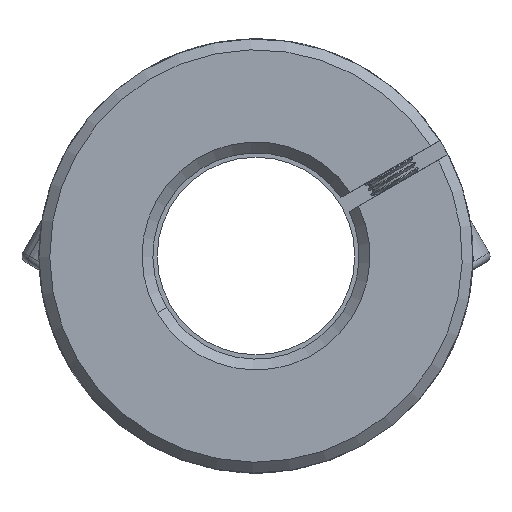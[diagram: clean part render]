
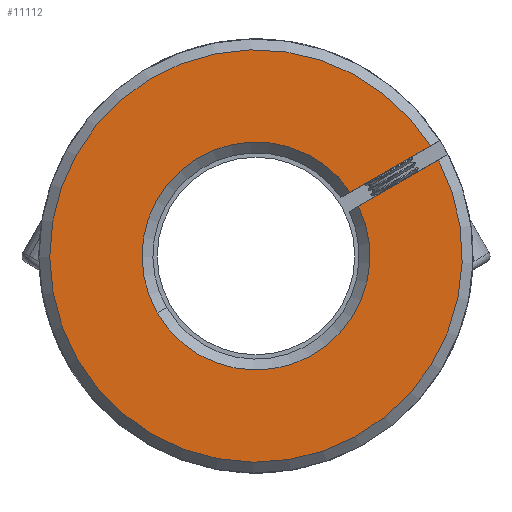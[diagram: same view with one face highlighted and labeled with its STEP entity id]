
A CAD part, front view. The second image highlights one B-rep face of the part: STEP entity #11112.
In plain terms, the highlighted planar face has unit normal (0, -1, 0).
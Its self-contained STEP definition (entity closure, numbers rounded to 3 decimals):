
#151 = DIRECTION ( 'NONE',  ( 0.5, 0., -0.866 ) ) ;
#387 = EDGE_CURVE ( 'NONE', #9141, #8774, #7161, .T. ) ;
#487 = CARTESIAN_POINT ( 'NONE',  ( 15.367, -31.239, 48.848 ) ) ;
#809 = CARTESIAN_POINT ( 'NONE',  ( 7.997, -31.239, 44.59 ) ) ;
#947 = VERTEX_POINT ( 'NONE', #4828 ) ;
#1352 = CARTESIAN_POINT ( 'NONE',  ( -1.447, -31.239, 40. ) ) ;
#2239 = CARTESIAN_POINT ( 'NONE',  ( -1.447, -31.239, 40. ) ) ;
#2567 = CARTESIAN_POINT ( 'NONE',  ( 6.378, -31.239, 45.387 ) ) ;
#2779 = LINE ( 'NONE', #2567, #11375 ) ;
#3154 = VECTOR ( 'NONE', #6015, 1000. ) ;
#3374 = AXIS2_PLACEMENT_3D ( 'NONE', #4030, #7257, #8456 ) ;
#3636 = CIRCLE ( 'NONE', #13313, 10.5 ) ;
#4030 = CARTESIAN_POINT ( 'NONE',  ( 52.98, -31.239, 45.743 ) ) ;
#4237 = EDGE_CURVE ( 'NONE', #9141, #12596, #13069, .T. ) ;
#4828 = CARTESIAN_POINT ( 'NONE',  ( 14.616, -31.239, 50.147 ) ) ;
#4841 = AXIS2_PLACEMENT_3D ( 'NONE', #12796, #9672, #9574 ) ;
#5178 = ORIENTED_EDGE ( 'NONE', *, *, #13847, .F. ) ;
#5442 = AXIS2_PLACEMENT_3D ( 'NONE', #1352, #7659, #151 ) ;
#5930 = CARTESIAN_POINT ( 'NONE',  ( 7.128, -31.239, 44.088 ) ) ;
#6015 = DIRECTION ( 'NONE',  ( 0.866, 0., 0.5 ) ) ;
#6089 = FACE_OUTER_BOUND ( 'NONE', #10176, .T. ) ;
#6893 = ORIENTED_EDGE ( 'NONE', *, *, #387, .T. ) ;
#7161 = CIRCLE ( 'NONE', #5442, 10.5 ) ;
#7256 = VERTEX_POINT ( 'NONE', #12326 ) ;
#7257 = DIRECTION ( 'NONE',  ( 0., 1., 0. ) ) ;
#7659 = DIRECTION ( 'NONE',  ( 0., 1., 0. ) ) ;
#7664 = DIRECTION ( 'NONE',  ( 0., 1., 0. ) ) ;
#7707 = DIRECTION ( 'NONE',  ( 0.5, 0., -0.866 ) ) ;
#8456 = DIRECTION ( 'NONE',  ( 0.5, 0., -0.866 ) ) ;
#8705 = ORIENTED_EDGE ( 'NONE', *, *, #4237, .F. ) ;
#8774 = VERTEX_POINT ( 'NONE', #9368 ) ;
#9062 = DIRECTION ( 'NONE',  ( -0.866, 0., -0.5 ) ) ;
#9141 = VERTEX_POINT ( 'NONE', #809 ) ;
#9368 = CARTESIAN_POINT ( 'NONE',  ( -10.539, -31.239, 34.747 ) ) ;
#9574 = DIRECTION ( 'NONE',  ( 0.5, 0., -0.866 ) ) ;
#9672 = DIRECTION ( 'NONE',  ( 0., -1., 0. ) ) ;
#10072 = ORIENTED_EDGE ( 'NONE', *, *, #10602, .T. ) ;
#10176 = EDGE_LOOP ( 'NONE', ( #8705, #6893, #12410, #5178, #10072 ) ) ;
#10602 = EDGE_CURVE ( 'NONE', #947, #12596, #12785, .T. ) ;
#11112 = ADVANCED_FACE ( 'NONE', ( #6089 ), #13688, .F. ) ;
#11375 = VECTOR ( 'NONE', #9062, 1000. ) ;
#12326 = CARTESIAN_POINT ( 'NONE',  ( 7.246, -31.239, 45.889 ) ) ;
#12410 = ORIENTED_EDGE ( 'NONE', *, *, #13774, .T. ) ;
#12596 = VERTEX_POINT ( 'NONE', #487 ) ;
#12785 = CIRCLE ( 'NONE', #4841, 19. ) ;
#12796 = CARTESIAN_POINT ( 'NONE',  ( -1.447, -31.239, 40. ) ) ;
#13069 = LINE ( 'NONE', #5930, #3154 ) ;
#13313 = AXIS2_PLACEMENT_3D ( 'NONE', #2239, #7664, #7707 ) ;
#13688 = PLANE ( 'NONE',  #3374 ) ;
#13774 = EDGE_CURVE ( 'NONE', #8774, #7256, #3636, .T. ) ;
#13847 = EDGE_CURVE ( 'NONE', #947, #7256, #2779, .T. ) ;
